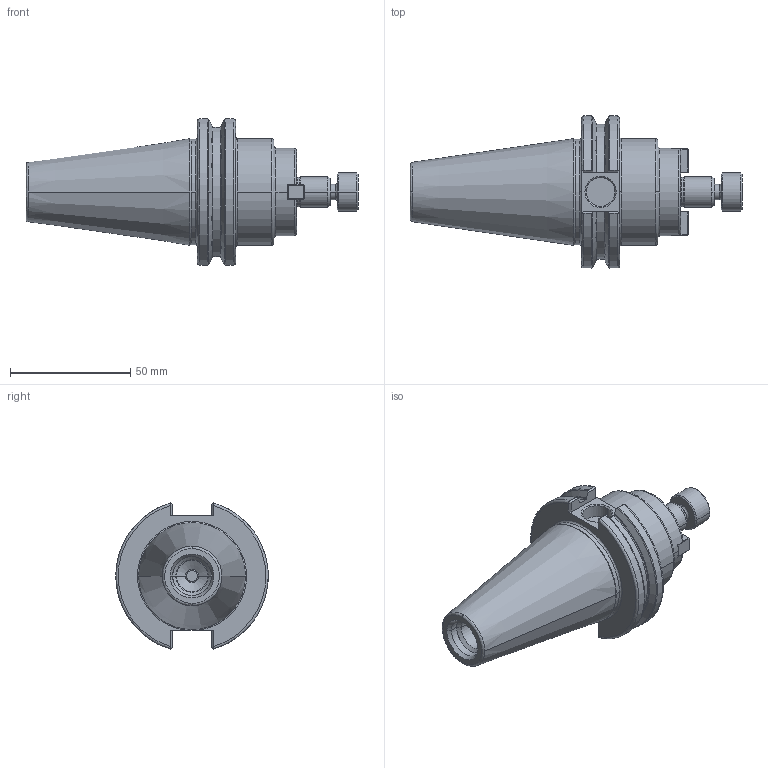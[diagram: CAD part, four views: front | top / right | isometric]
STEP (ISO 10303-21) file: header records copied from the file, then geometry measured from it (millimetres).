
FILE_DESCRIPTION (( 'STEP AP214' ), '1' );
FILE_NAME ('04-0910.STEP', '2022-08-31T21:04:04', ( '' ), ( '' ), 'SwSTEP 2.0', 'SolidWorks 2021', '' );
FILE_SCHEMA (( 'AUTOMOTIVE_DESIGN' ));
Length unit declared in the file: inch
Products named in the file (1): 04-0910
Bounding box: 138.31 x 63.47 x 60.92 mm (x, y, z)
Volume: 136410.6 mm3; surface area: 27085.1 mm2
Topology: 2 solids, 6 shells, 320 faces, 798 edges, 483 vertices
Faces by surface type: plane 134, cone 67, cylinder 63, bspline 56
Entity records: 16941 total; most frequent: CARTESIAN_POINT 5430, ORIENTED_EDGE 1576, DIRECTION 1458, EDGE_CURVE 788, AXIS2_PLACEMENT_3D 535, VERTEX_POINT 483, VECTOR 388, LINE 388
